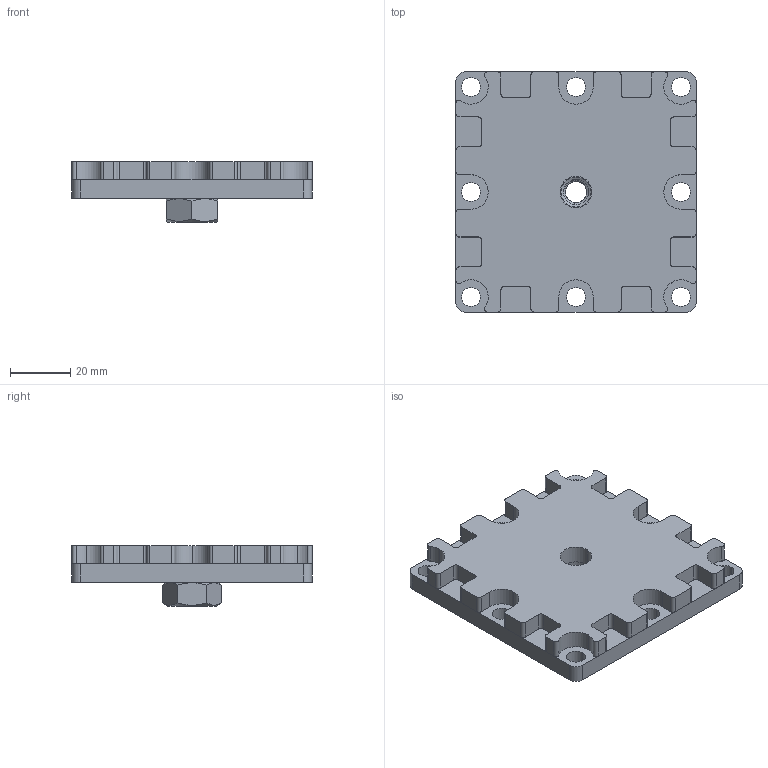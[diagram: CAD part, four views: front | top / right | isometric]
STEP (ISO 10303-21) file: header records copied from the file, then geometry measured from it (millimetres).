
FILE_DESCRIPTION (( 'STEP AP214' ), '1' );
FILE_NAME ('TS-8080-Connector-M10.STEP', '2026-09-15T09:09:50', ( '' ), ( '' ), 'SwSTEP 2.0', 'SolidWorks 2022', '' );
FILE_SCHEMA (( 'AUTOMOTIVE_DESIGN' ));
Length unit declared in the file: millimetre
Products named in the file (4): Гайка DIN934_M10; Part1; Part2_TS-8080-Connector; TS-8080-Connector-M10
Assembly tree (3 placements, depth 2):
  TS-8080-Connector-M10
    Part1
    Part2_TS-8080-Connector
    Гайка DIN934_M10
Bounding box: 80 x 80 x 20 mm (x, y, z)
Volume: 66622 mm3; surface area: 29051.7 mm2
Topology: 3 solids, 3 shells, 178 faces, 508 edges, 336 vertices
Faces by surface type: cylinder 97, plane 64, bspline 9, cone 8
Entity records: 9871 total; most frequent: CARTESIAN_POINT 4901, ORIENTED_EDGE 1016, DIRECTION 976, EDGE_CURVE 508, AXIS2_PLACEMENT_3D 355, VERTEX_POINT 336, LINE 266, VECTOR 266
